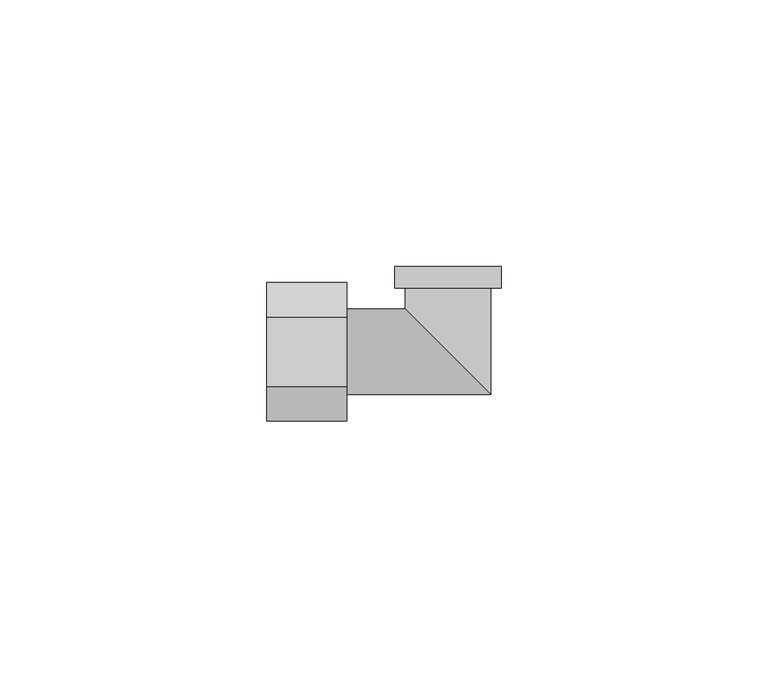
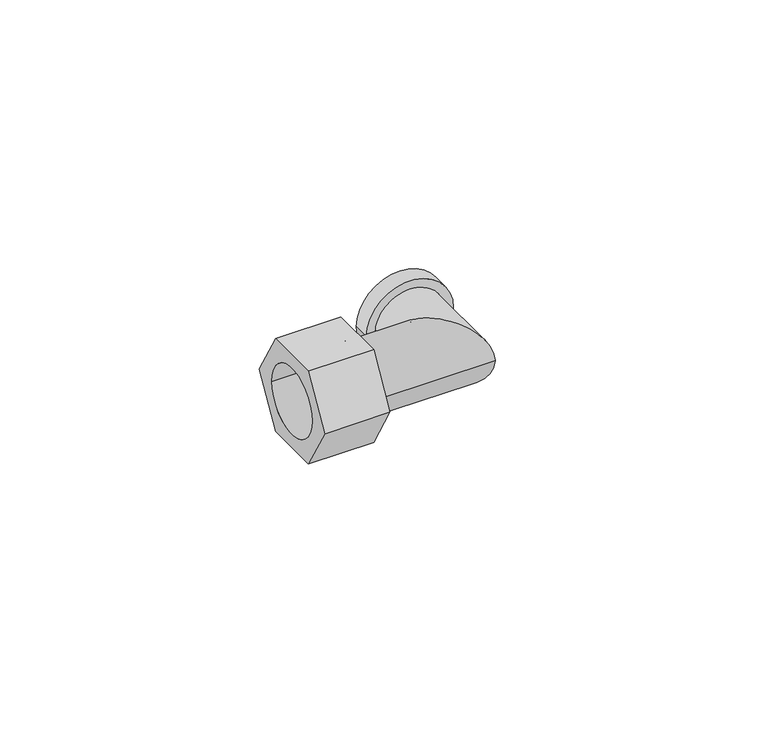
"""IFC4 building model written with IfcOpenShell, lengths in millimetres: pipe fitting geometry, БИР ПЕКС_КМП_Угольник_Резьба_Внутренняя : Угольник с внутренней резьбой_КМП."""

from ifc_helpers import new_model, si_unit, point, frame, origin, origin_2d, place, context, project, spatial, polyline, circle_curve, ellipse_curve, trimmed, segment, composite_curve, outline, extrude, source, transform, mapped, element, save
from ifc_brep_helpers import plane_surface, cylinder_surface, revolved_surface, advanced_brep


def pipe_fitting_afb65204(model_context):
    return source(origin(), model_context, "Body", "SolidModel", [
        extrude(outline(polyline([(-6.5, -11.2583302), (-13.0, 0.0), (-6.5, 11.2583302), (6.5, 11.2583302), (13.0, 0.0), (6.5, -11.2583302), (-6.5, -11.2583302)]), holes=[composite_curve([segment(trimmed(circle_curve(origin_2d(), 8.0), [point((-8.0, 0.0))], [point((8.0, 0.0))], True, "CARTESIAN"), True, "CONTINUOUS"), segment(trimmed(circle_curve(origin_2d(), 8.0), [point((8.0, 0.0))], [point((-8.0, 0.0))], True, "CARTESIAN"), True, "CONTINUOUS")], self_intersect=False)]), frame((-34.0, 0.0, 0.0), z_axis=(1.0, 0.0, 0.0), x_axis=(0.0, 1.0, 0.0)), (0.0, 0.0, 1.0), 15.0),
        advanced_brep(
        [(-19.0, -8.0, 0.0), (-19.0, 8.0, 0.0), (-19.0, -7.5, 0.0), (-19.0, 7.5, 0.0), (8.0, -8.0, 0.0), (-8.0, 8.0, 0.0), (-10.0, 16.0, 0.0), (10.0, 16.0, 0.0), (7.5, 16.0, 0.0), (-7.5, 16.0, 0.0), (8.0, 12.0, 0.0), (-8.0, 12.0, 0.0), (-10.0, 12.0, 0.0), (10.0, 12.0, 0.0), (7.5, -7.5, 0.0), (-7.5, 7.5, 0.0), (-7.5, 12.0, 0.0), (7.5, 12.0, 0.0)],
        [
            (0, 1, circle_curve(frame((-19.0, 0.0, 0.0), z_axis=(-1.0, 0.0, 0.0), x_axis=(0.0, 1.0, 0.0)), 8.0)),
            (1, 0, circle_curve(frame((-19.0, 0.0, 0.0), z_axis=(-1.0, 0.0, 0.0), x_axis=(0.0, 1.0, 0.0)), 8.0)),
            (2, 3, circle_curve(frame((-19.0, 0.0, 0.0), z_axis=(1.0, 0.0, 0.0), x_axis=(0.0, 1.0, 0.0)), 7.5)),
            (3, 2, circle_curve(frame((-19.0, 0.0, 0.0), z_axis=(1.0, 0.0, 0.0), x_axis=(0.0, 1.0, 0.0)), 7.5)),
            (0, 4),
            (4, 5, ellipse_curve(frame((0.0, 0.0, 0.0), z_axis=(-0.7071067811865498, -0.7071067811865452, 0.0), x_axis=(-0.7071067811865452, 0.7071067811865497, 0.0)), 11.3137085, 8.0)),
            (5, 1),
            (5, 4, ellipse_curve(frame((0.0, 0.0, 0.0), z_axis=(-0.7071067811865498, -0.7071067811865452, 0.0), x_axis=(-0.7071067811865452, 0.7071067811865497, 0.0)), 11.3137085, 8.0)),
            (6, 7, circle_curve(frame((0.0, 16.0, 0.0), z_axis=(0.0, 1.0, 0.0), x_axis=(1.0, 0.0, 0.0)), 10.0)),
            (7, 6, circle_curve(frame((0.0, 16.0, 0.0), z_axis=(0.0, 1.0, 0.0), x_axis=(1.0, 0.0, 0.0)), 10.0)),
            (8, 9, circle_curve(frame((0.0, 16.0, 0.0), z_axis=(0.0, -1.0, 0.0), x_axis=(-1.0, 0.0, 0.0)), 7.5)),
            (9, 8, circle_curve(frame((0.0, 16.0, 0.0), z_axis=(0.0, -1.0, 0.0), x_axis=(-1.0, 0.0, 0.0)), 7.5)),
            (4, 10),
            (10, 11, circle_curve(frame((0.0, 12.0, 0.0), z_axis=(0.0, -1.0, 0.0), x_axis=(-1.0, 0.0, 0.0)), 8.0)),
            (11, 5),
            (11, 10, circle_curve(frame((0.0, 12.0, 0.0), z_axis=(0.0, -1.0, 0.0), x_axis=(-1.0, 0.0, 0.0)), 8.0)),
            (12, 13, circle_curve(frame((0.0, 12.0, 0.0), z_axis=(0.0, -1.0, 0.0), x_axis=(1.0, 0.0, 0.0)), 10.0)),
            (13, 12, circle_curve(frame((0.0, 12.0, 0.0), z_axis=(0.0, -1.0, 0.0), x_axis=(1.0, 0.0, 0.0)), 10.0)),
            (12, 6),
            (7, 13),
            (2, 14),
            (14, 15, ellipse_curve(frame((0.0, 0.0, 0.0), z_axis=(0.7071067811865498, 0.7071067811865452, 0.0), x_axis=(0.7071067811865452, -0.7071067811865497, 0.0)), 10.6066017, 7.5)),
            (15, 3),
            (15, 14, ellipse_curve(frame((0.0, 0.0, 0.0), z_axis=(0.7071067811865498, 0.7071067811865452, 0.0), x_axis=(0.7071067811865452, -0.7071067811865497, 0.0)), 10.6066017, 7.5)),
            (9, 16),
            (16, 15),
            (14, 17),
            (17, 8),
        ],
        [
            plane_surface(frame((-19.0, 0.0, 0.0), z_axis=(-1.0, 0.0, 0.0), x_axis=(0.0, 0.0, 1.0))),
            cylinder_surface(frame((-19.0, 0.0, 0.0), z_axis=(-1.0, 0.0, 0.0), x_axis=(0.0, 1.0, 0.0)), 8.0),
            plane_surface(frame((0.0, 16.0, 0.0), z_axis=(0.0, 1.0, 0.0), x_axis=(0.0, 0.0, 1.0))),
            cylinder_surface(frame((0.0, 0.0, 0.0), z_axis=(0.0, -1.0, 0.0), x_axis=(-1.0, 0.0, 0.0)), 8.0),
            plane_surface(frame((10.0, 12.0, 0.0), z_axis=(0.0, -1.0, 0.0), x_axis=(0.0, 0.0, 1.0))),
            cylinder_surface(frame((0.0, 16.0, 0.0), z_axis=(0.0, -1.0, 0.0), x_axis=(1.0, 0.0, 0.0)), 10.0),
            revolved_surface(polyline([(7.5, 7.5, 0.0), (-19.0, 7.5, 0.0)]), (-19.0, 0.0, 0.0), (1.0, 0.0, 0.0)),
            revolved_surface(polyline([(-7.5, 16.0, 0.0), (-7.5, -7.5, 0.0)]), (0.0, 0.0, 0.0), (0.0, 1.0, 0.0)),
        ],
        [
            (0, [[1, 2], [3, 4]]),
            (1, [[-1, 5, 6, 7]]),
            (1, [[-2, -7, 8, -5]]),
            (2, [[9, 10], [11, 12]]),
            (3, [[-6, 13, 14, 15]]),
            (3, [[-8, -15, 16, -13]]),
            (4, [[17, 18], [-14, -16]]),
            (5, [[-17, 19, -10, 20]]),
            (5, [[-18, -20, -9, -19]]),
            (6, [[-3, 21, 22, 23]]),
            (6, [[-4, -23, 24, -21]]),
            (7, [[-12, 25, 26, -22, 27, 28]]),
            (7, [[-11, -28, -27, -24, -26, -25]]),
        ],
    ),
    ])


if __name__ == "__main__":
    model = new_model("IFC4")
    model_context = context("Model", 3, world=origin())
    ifc_project = project(units=[si_unit("LENGTHUNIT", "METRE", prefix="MILLI")], contexts=[model_context])
    site = spatial("IfcSite", under=ifc_project)
    building = spatial("IfcBuilding", under=site)
    placement = place(None, origin())
    pipe_fitting_shape = pipe_fitting_afb65204(model_context)
    element("IfcPipeFitting", 1, ObjectType="БИР ПЕКС_КМП_Угольник_Резьба_Внутренняя : Угольник с внутренней резьбой_КМП", at=placement, inside=building, context=model_context, shape_type="MappedRepresentation", body=[
        mapped(pipe_fitting_shape, transform((0.0, 0.0, 0.0), x_axis=(1.0, 0.0, 0.0), y_axis=(0.0, 1.0, 0.0), z_axis=(0.0, 0.0, 1.0))),
    ])
    save(model, "model.ifc")
